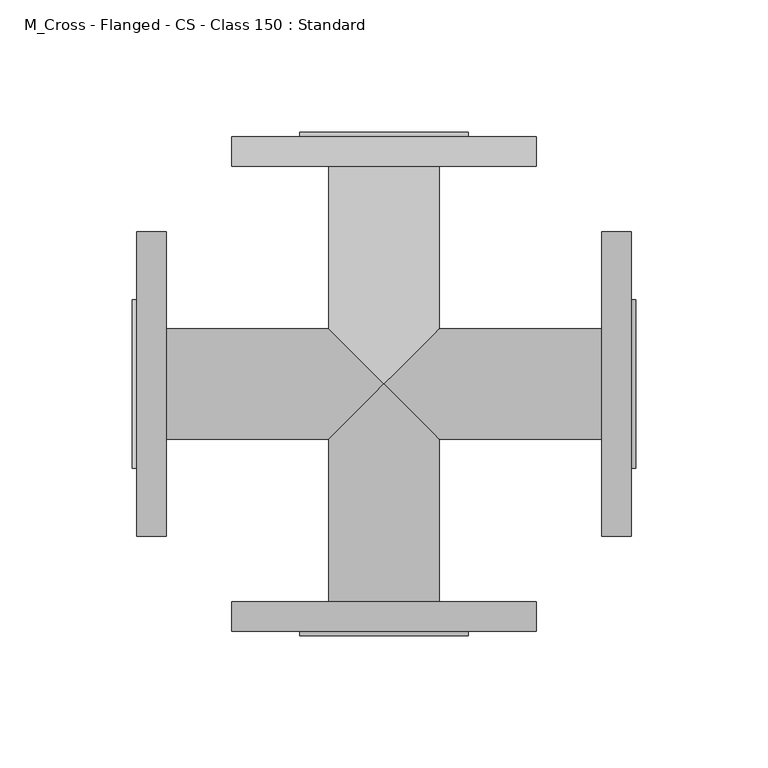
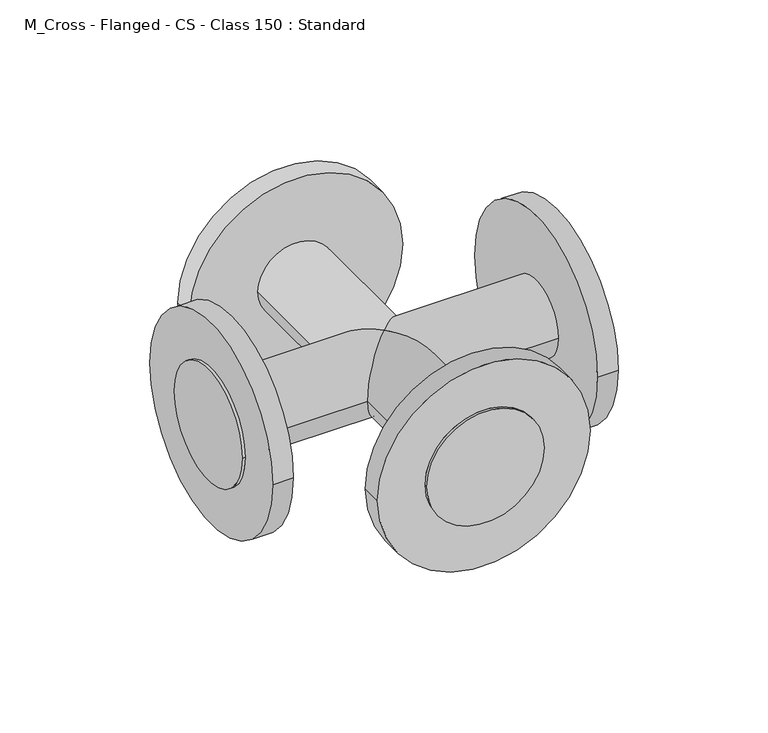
"""IFC4 building model written with IfcOpenShell, lengths in millimetres: pipe fitting geometry, M_Cross - Flanged - CS - Class 150 : Standard."""

from ifc_helpers import new_model, si_unit, frame, origin, place, context, project, spatial, circle_curve, ellipse_curve, source, transform, mapped, element, save
from ifc_brep_helpers import plane_surface, cylinder_surface, advanced_brep


def m_cross_flanged_cs_class_150_standard_46ec961b(model_context):
    return source(origin(), model_context, "Body", "AdvancedBrep", [
        advanced_brep(
        [(57.5, 82.2125, 0.0), (-57.5, 82.2125, 0.0), (-20.8, 82.2125, 0.0), (20.8, 82.2125, 0.0), (57.5, 93.4125, 0.0), (-57.5, 93.4125, 0.0), (31.75, 93.4125, 0.0), (-31.75, 93.4125, 0.0), (-20.8, 20.8, 0.0), (0.0, 0.0, 20.8), (20.8, 20.8, 0.0), (0.0, 0.0, -20.8), (31.75, 95.0, 0.0), (-31.75, 95.0, 0.0), (-20.8, -82.2125, 0.0), (20.8, -82.2125, 0.0), (20.8, -20.8, 0.0), (-20.8, -20.8, 0.0), (-57.5, -82.2125, 0.0), (57.5, -82.2125, 0.0), (-57.5, -93.4125, 0.0), (57.5, -93.4125, 0.0), (-31.75, -93.4125, 0.0), (31.75, -93.4125, 0.0), (-31.75, -95.0, 0.0), (31.75, -95.0, 0.0), (82.2125, 20.8, 0.0), (82.2125, -20.8, 0.0), (-82.2125, 20.8, 0.0), (-82.2125, -20.8, 0.0), (-93.4125, -57.5, 0.0), (-93.4125, 57.5, 0.0), (-93.4125, 31.75, 0.0), (-93.4125, -31.75, 0.0), (-82.2125, -57.5, 0.0), (-82.2125, 57.5, 0.0), (82.2125, -57.5, 0.0), (82.2125, 57.5, 0.0), (93.4125, -57.5, 0.0), (93.4125, 57.5, 0.0), (93.4125, -31.75, 0.0), (93.4125, 31.75, 0.0), (95.0, -31.75, 0.0), (95.0, 31.75, 0.0), (-95.0, 31.75, 0.0), (-95.0, -31.75, 0.0)],
        [
            (0, 1, circle_curve(frame((0.0, 82.2125, 0.0), z_axis=(0.0, -1.0, 0.0), x_axis=(-1.0, 0.0, 0.0)), 57.5)),
            (1, 0, circle_curve(frame((0.0, 82.2125, 0.0), z_axis=(0.0, -1.0, 0.0), x_axis=(-1.0, 0.0, 0.0)), 57.5)),
            (2, 3, circle_curve(frame((0.0, 82.2125, 0.0), z_axis=(0.0, 1.0, 0.0), x_axis=(-1.0, 0.0, 0.0)), 20.8)),
            (3, 2, circle_curve(frame((0.0, 82.2125, 0.0), z_axis=(0.0, 1.0, 0.0), x_axis=(-1.0, 0.0, 0.0)), 20.8)),
            (4, 5, circle_curve(frame((0.0, 93.4125, 0.0), z_axis=(0.0, 1.0, 0.0), x_axis=(-1.0, 0.0, 0.0)), 57.5)),
            (5, 4, circle_curve(frame((0.0, 93.4125, 0.0), z_axis=(0.0, 1.0, 0.0), x_axis=(-1.0, 0.0, 0.0)), 57.5)),
            (6, 7, circle_curve(frame((0.0, 93.4125, 0.0), z_axis=(0.0, -1.0, 0.0), x_axis=(-1.0, 0.0, 0.0)), 31.75)),
            (7, 6, circle_curve(frame((0.0, 93.4125, 0.0), z_axis=(0.0, -1.0, 0.0), x_axis=(-1.0, 0.0, 0.0)), 31.75)),
            (0, 4),
            (5, 1),
            (2, 8),
            (8, 9, ellipse_curve(frame((0.0, 0.0, 0.0), z_axis=(0.707106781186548, 0.7071067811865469, 0.0), x_axis=(0.7071067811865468, -0.7071067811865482, 0.0)), 29.4156421, 20.8)),
            (9, 10, ellipse_curve(frame((0.0, 0.0, 0.0), z_axis=(-0.7071067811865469, 0.7071067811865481, 0.0), x_axis=(-0.7071067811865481, -0.7071067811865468, 0.0)), 29.4156421, 20.8)),
            (10, 3),
            (10, 11, ellipse_curve(frame((0.0, 0.0, 0.0), z_axis=(-0.7071067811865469, 0.7071067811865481, 0.0), x_axis=(-0.7071067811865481, -0.7071067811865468, 0.0)), 29.4156421, 20.8)),
            (11, 8, ellipse_curve(frame((0.0, 0.0, 0.0), z_axis=(0.707106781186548, 0.7071067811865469, 0.0), x_axis=(0.7071067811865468, -0.7071067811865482, 0.0)), 29.4156421, 20.8)),
            (12, 13, circle_curve(frame((0.0, 95.0, 0.0), z_axis=(0.0, 1.0, 0.0), x_axis=(-1.0, 0.0, 0.0)), 31.75)),
            (13, 12, circle_curve(frame((0.0, 95.0, 0.0), z_axis=(0.0, 1.0, 0.0), x_axis=(-1.0, 0.0, 0.0)), 31.75)),
            (13, 7),
            (6, 12),
            (14, 15, circle_curve(frame((0.0, -82.2125, 0.0), z_axis=(0.0, 1.0, 0.0), x_axis=(1.0, 0.0, 0.0)), 20.8)),
            (15, 16),
            (16, 9, ellipse_curve(frame((0.0, 0.0, 0.0), z_axis=(-0.7071067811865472, -0.7071067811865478, 0.0), x_axis=(-0.7071067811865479, 0.7071067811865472, 0.0)), 29.4156421, 20.8)),
            (9, 17, ellipse_curve(frame((0.0, 0.0, 0.0), z_axis=(0.7071067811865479, -0.7071067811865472, 0.0), x_axis=(0.7071067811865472, 0.7071067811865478, 0.0)), 29.4156421, 20.8)),
            (17, 14),
            (15, 14, circle_curve(frame((0.0, -82.2125, 0.0), z_axis=(0.0, 1.0, 0.0), x_axis=(1.0, 0.0, 0.0)), 20.8)),
            (17, 11, ellipse_curve(frame((0.0, 0.0, 0.0), z_axis=(0.7071067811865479, -0.7071067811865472, 0.0), x_axis=(0.7071067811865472, 0.7071067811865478, 0.0)), 29.4156421, 20.8)),
            (11, 16, ellipse_curve(frame((0.0, 0.0, 0.0), z_axis=(-0.7071067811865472, -0.7071067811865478, 0.0), x_axis=(-0.7071067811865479, 0.7071067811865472, 0.0)), 29.4156421, 20.8)),
            (18, 19, circle_curve(frame((0.0, -82.2125, 0.0), z_axis=(0.0, 1.0, 0.0), x_axis=(1.0, 0.0, 0.0)), 57.5)),
            (19, 18, circle_curve(frame((0.0, -82.2125, 0.0), z_axis=(0.0, 1.0, 0.0), x_axis=(1.0, 0.0, 0.0)), 57.5)),
            (20, 21, circle_curve(frame((0.0, -93.4125, 0.0), z_axis=(0.0, -1.0, 0.0), x_axis=(1.0, 0.0, 0.0)), 57.5)),
            (21, 20, circle_curve(frame((0.0, -93.4125, 0.0), z_axis=(0.0, -1.0, 0.0), x_axis=(1.0, 0.0, 0.0)), 57.5)),
            (22, 23, circle_curve(frame((0.0, -93.4125, 0.0), z_axis=(0.0, 1.0, 0.0), x_axis=(1.0, 0.0, 0.0)), 31.75)),
            (23, 22, circle_curve(frame((0.0, -93.4125, 0.0), z_axis=(0.0, 1.0, 0.0), x_axis=(1.0, 0.0, 0.0)), 31.75)),
            (18, 20),
            (21, 19),
            (24, 25, circle_curve(frame((0.0, -95.0, 0.0), z_axis=(0.0, -1.0, 0.0), x_axis=(1.0, 0.0, 0.0)), 31.75)),
            (25, 24, circle_curve(frame((0.0, -95.0, 0.0), z_axis=(0.0, -1.0, 0.0), x_axis=(1.0, 0.0, 0.0)), 31.75)),
            (25, 23),
            (22, 24),
            (26, 10),
            (16, 27),
            (27, 26, circle_curve(frame((82.2125, 0.0, 0.0), z_axis=(-1.0, 0.0, 0.0), x_axis=(0.0, 1.0, 0.0)), 20.8)),
            (26, 27, circle_curve(frame((82.2125, 0.0, 0.0), z_axis=(-1.0, 0.0, 0.0), x_axis=(0.0, 1.0, 0.0)), 20.8)),
            (8, 28),
            (28, 29, circle_curve(frame((-82.2125, 0.0, 0.0), z_axis=(1.0, 0.0, 0.0), x_axis=(0.0, 1.0, 0.0)), 20.8)),
            (29, 17),
            (29, 28, circle_curve(frame((-82.2125, 0.0, 0.0), z_axis=(1.0, 0.0, 0.0), x_axis=(0.0, 1.0, 0.0)), 20.8)),
            (30, 31, circle_curve(frame((-93.4125, 0.0, 0.0), z_axis=(-1.0, 0.0, 0.0), x_axis=(0.0, 1.0, 0.0)), 57.5)),
            (31, 30, circle_curve(frame((-93.4125, 0.0, 0.0), z_axis=(-1.0, 0.0, 0.0), x_axis=(0.0, 1.0, 0.0)), 57.5)),
            (32, 33, circle_curve(frame((-93.4125, 0.0, 0.0), z_axis=(1.0, 0.0, 0.0), x_axis=(0.0, -1.0, 0.0)), 31.75)),
            (33, 32, circle_curve(frame((-93.4125, 0.0, 0.0), z_axis=(1.0, 0.0, 0.0), x_axis=(0.0, -1.0, 0.0)), 31.75)),
            (34, 35, circle_curve(frame((-82.2125, 0.0, 0.0), z_axis=(1.0, 0.0, 0.0), x_axis=(0.0, 1.0, 0.0)), 57.5)),
            (35, 34, circle_curve(frame((-82.2125, 0.0, 0.0), z_axis=(1.0, 0.0, 0.0), x_axis=(0.0, 1.0, 0.0)), 57.5)),
            (30, 34),
            (35, 31),
            (36, 37, circle_curve(frame((82.2125, 0.0, 0.0), z_axis=(-1.0, 0.0, 0.0), x_axis=(0.0, 1.0, 0.0)), 57.5)),
            (37, 36, circle_curve(frame((82.2125, 0.0, 0.0), z_axis=(-1.0, 0.0, 0.0), x_axis=(0.0, 1.0, 0.0)), 57.5)),
            (38, 39, circle_curve(frame((93.4125, 0.0, 0.0), z_axis=(1.0, 0.0, 0.0), x_axis=(0.0, 1.0, 0.0)), 57.5)),
            (39, 38, circle_curve(frame((93.4125, 0.0, 0.0), z_axis=(1.0, 0.0, 0.0), x_axis=(0.0, 1.0, 0.0)), 57.5)),
            (40, 41, circle_curve(frame((93.4125, 0.0, 0.0), z_axis=(-1.0, 0.0, 0.0), x_axis=(0.0, 1.0, 0.0)), 31.75)),
            (41, 40, circle_curve(frame((93.4125, 0.0, 0.0), z_axis=(-1.0, 0.0, 0.0), x_axis=(0.0, 1.0, 0.0)), 31.75)),
            (36, 38),
            (39, 37),
            (42, 43, circle_curve(frame((95.0, 0.0, 0.0), z_axis=(1.0, 0.0, 0.0), x_axis=(0.0, 1.0, 0.0)), 31.75)),
            (43, 42, circle_curve(frame((95.0, 0.0, 0.0), z_axis=(1.0, 0.0, 0.0), x_axis=(0.0, 1.0, 0.0)), 31.75)),
            (43, 41),
            (40, 42),
            (44, 45, circle_curve(frame((-95.0, 0.0, 0.0), z_axis=(-1.0, 0.0, 0.0), x_axis=(0.0, -1.0, 0.0)), 31.75)),
            (45, 44, circle_curve(frame((-95.0, 0.0, 0.0), z_axis=(-1.0, 0.0, 0.0), x_axis=(0.0, -1.0, 0.0)), 31.75)),
            (45, 33),
            (32, 44),
        ],
        [
            plane_surface(frame((0.0, 82.2125, 0.0), z_axis=(0.0, -1.0, 0.0), x_axis=(0.0, 0.0, 1.0))),
            plane_surface(frame((0.0, 93.4125, 0.0), z_axis=(0.0, 1.0, 0.0), x_axis=(0.0, 0.0, 1.0))),
            cylinder_surface(frame((0.0, 82.2125, 0.0), z_axis=(0.0, -1.0, 0.0), x_axis=(-1.0, 0.0, 0.0)), 57.5),
            cylinder_surface(frame((0.0, 0.0, 0.0), z_axis=(0.0, -1.0, 0.0), x_axis=(-1.0, 0.0, 0.0)), 20.8),
            plane_surface(frame((0.0, 95.0, 0.0), z_axis=(0.0, 1.0, 0.0), x_axis=(0.0, 0.0, 1.0))),
            cylinder_surface(frame((0.0, 93.4125, 0.0), z_axis=(0.0, -1.0, 0.0), x_axis=(-1.0, 0.0, 0.0)), 31.75),
            cylinder_surface(frame((0.0, 0.0, 0.0), z_axis=(0.0, 1.0, 0.0), x_axis=(1.0, 0.0, 0.0)), 20.8),
            plane_surface(frame((0.0, -82.2125, 0.0), z_axis=(0.0, 1.0, 0.0), x_axis=(0.0, 0.0, 1.0))),
            plane_surface(frame((0.0, -93.4125, 0.0), z_axis=(0.0, -1.0, 0.0), x_axis=(0.0, 0.0, 1.0))),
            cylinder_surface(frame((0.0, -82.2125, 0.0), z_axis=(0.0, 1.0, 0.0), x_axis=(1.0, 0.0, 0.0)), 57.5),
            plane_surface(frame((0.0, -95.0, 0.0), z_axis=(0.0, -1.0, 0.0), x_axis=(0.0, 0.0, 1.0))),
            cylinder_surface(frame((0.0, -93.4125, 0.0), z_axis=(0.0, 1.0, 0.0), x_axis=(1.0, 0.0, 0.0)), 31.75),
            cylinder_surface(frame((0.0, 0.0, 0.0), z_axis=(-1.0, 0.0, 0.0), x_axis=(0.0, 1.0, 0.0)), 20.8),
            cylinder_surface(frame((-82.2125, 0.0, 0.0), z_axis=(-1.0, 0.0, 0.0), x_axis=(0.0, 1.0, 0.0)), 20.8),
            plane_surface(frame((-93.4125, 0.0, 0.0), z_axis=(-1.0, 0.0, 0.0), x_axis=(0.0, 0.0, 1.0))),
            plane_surface(frame((-82.2125, 0.0, 0.0), z_axis=(1.0, 0.0, 0.0), x_axis=(0.0, 0.0, 1.0))),
            cylinder_surface(frame((-93.4125, 0.0, 0.0), z_axis=(-1.0, 0.0, 0.0), x_axis=(0.0, 1.0, 0.0)), 57.5),
            plane_surface(frame((82.2125, 0.0, 0.0), z_axis=(-1.0, 0.0, 0.0), x_axis=(0.0, 0.0, 1.0))),
            plane_surface(frame((93.4125, 0.0, 0.0), z_axis=(1.0, 0.0, 0.0), x_axis=(0.0, 0.0, 1.0))),
            cylinder_surface(frame((82.2125, 0.0, 0.0), z_axis=(-1.0, 0.0, 0.0), x_axis=(0.0, 1.0, 0.0)), 57.5),
            plane_surface(frame((95.0, 0.0, 0.0), z_axis=(1.0, 0.0, 0.0), x_axis=(0.0, 0.0, 1.0))),
            cylinder_surface(frame((93.4125, 0.0, 0.0), z_axis=(-1.0, 0.0, 0.0), x_axis=(0.0, 1.0, 0.0)), 31.75),
            plane_surface(frame((-95.0, 0.0, 0.0), z_axis=(-1.0, 0.0, 0.0), x_axis=(0.0, 0.0, 1.0))),
            cylinder_surface(frame((-93.4125, 0.0, 0.0), z_axis=(1.0, 0.0, 0.0), x_axis=(0.0, -1.0, 0.0)), 31.75),
        ],
        [
            (0, [[1, 2], [3, 4]]),
            (1, [[5, 6], [7, 8]]),
            (2, [[-1, 9, -6, 10]]),
            (2, [[-2, -10, -5, -9]]),
            (3, [[-3, 11, 12, 13, 14]]),
            (3, [[-4, -14, 15, 16, -11]]),
            (4, [[17, 18]]),
            (5, [[-18, 19, -7, 20]]),
            (5, [[-17, -20, -8, -19]]),
            (6, [[21, 22, 23, 24, 25]]),
            (6, [[26, -25, 27, 28, -22]]),
            (7, [[29, 30], [-21, -26]]),
            (8, [[31, 32], [33, 34]]),
            (9, [[-29, 35, -32, 36]]),
            (9, [[-30, -36, -31, -35]]),
            (10, [[37, 38]]),
            (11, [[-38, 39, -33, 40]]),
            (11, [[-37, -40, -34, -39]]),
            (12, [[41, -13, -23, 42, 43]]),
            (12, [[-41, 44, -42, -28, -15]]),
            (13, [[45, 46, 47, -24, -12]]),
            (13, [[-45, -16, -27, -47, 48]]),
            (14, [[49, 50], [51, 52]]),
            (15, [[53, 54], [-46, -48]]),
            (16, [[-49, 55, -54, 56]]),
            (16, [[-50, -56, -53, -55]]),
            (17, [[57, 58], [-43, -44]]),
            (18, [[59, 60], [61, 62]]),
            (19, [[-57, 63, -60, 64]]),
            (19, [[-58, -64, -59, -63]]),
            (20, [[65, 66]]),
            (21, [[-66, 67, -61, 68]]),
            (21, [[-65, -68, -62, -67]]),
            (22, [[69, 70]]),
            (23, [[-70, 71, -51, 72]]),
            (23, [[-69, -72, -52, -71]]),
        ],
    ),
    ])


if __name__ == "__main__":
    model = new_model("IFC4")
    model_context = context("Model", 3, world=origin())
    ifc_project = project(units=[si_unit("LENGTHUNIT", "METRE", prefix="MILLI")], contexts=[model_context])
    site = spatial("IfcSite", under=ifc_project)
    building = spatial("IfcBuilding", under=site)
    placement = place(None, origin())
    m_cross_flanged_cs_class_150_standard_shape = m_cross_flanged_cs_class_150_standard_46ec961b(model_context)
    element("IfcPipeFitting", 1, ObjectType="M_Cross - Flanged - CS - Class 150 : Standard", at=placement, inside=building, context=model_context, shape_type="MappedRepresentation", body=[
        mapped(m_cross_flanged_cs_class_150_standard_shape, transform((0.0, 0.0, 0.0), x_axis=(1.0, 0.0, 0.0), y_axis=(0.0, 1.0, 0.0), z_axis=(0.0, 0.0, 1.0))),
    ])
    save(model, "model.ifc")
